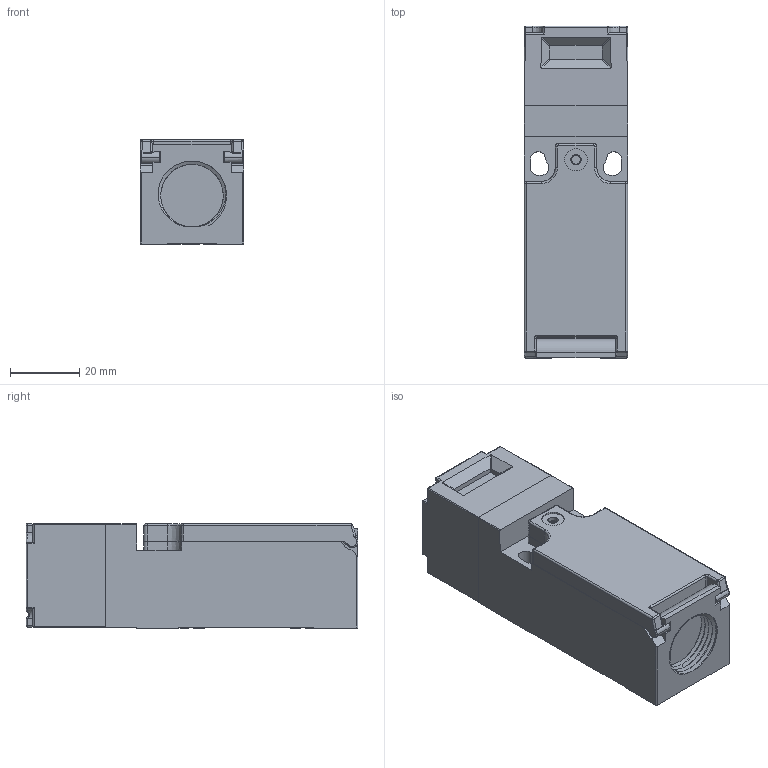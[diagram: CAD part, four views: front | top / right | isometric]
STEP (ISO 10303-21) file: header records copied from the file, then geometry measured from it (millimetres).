
FILE_DESCRIPTION((''),'2;1');
FILE_NAME('MA1_4_1','2022-08-17T12:03:06',('林章'),(''),'CREO PARAMETRIC BY PTC INC, 2020033','CREO PARAMETRIC BY PTC INC, 2020033','');
FILE_SCHEMA(('CONFIG_CONTROL_DESIGN'));
Length unit declared in the file: millimetre
Products named in the file (1): MA1_4_1
Bounding box: 30.05 x 96.03 x 30.3 mm (x, y, z)
Volume: 79319.3 mm3; surface area: 16332.4 mm2
Topology: 1 solids, 1 shells, 604 faces, 1614 edges, 1033 vertices
Faces by surface type: plane 382, cylinder 123, bspline 34, cone 34, torus 16, sphere 15
Entity records: 21393 total; most frequent: CARTESIAN_POINT 6578, ORIENTED_EDGE 3200, DIRECTION 2850, EDGE_CURVE 1600, VECTOR 1174, LINE 1174, VERTEX_POINT 1033, AXIS2_PLACEMENT_3D 838
